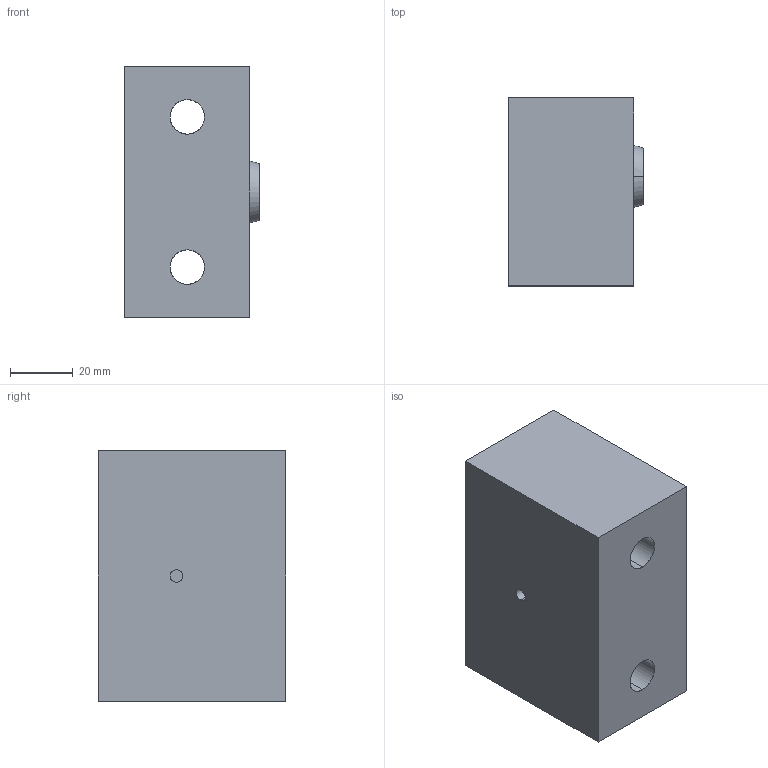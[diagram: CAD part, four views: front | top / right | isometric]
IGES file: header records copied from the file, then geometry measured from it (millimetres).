
Start section: START RECORD GO HERE.
Global section: file name: 750-040080.igs; native system: DASSAULT SYSTEMES CATIA V5 R20 - www.3ds.com; preprocessor: CATIA Version 5 Release 20 ; author: Utente; organization: NB04-ASUS; date: 20200410.202019; units: millimetre
Bounding box: 43 x 60 x 80 mm (x, y, z)
Surface area: 27209.5 mm2 (no closed solid volume)
Topology: 0 solids, 0 shells, 28 faces, 124 edges, 124 vertices
Faces by surface type: revolution 17, extrusion 11
